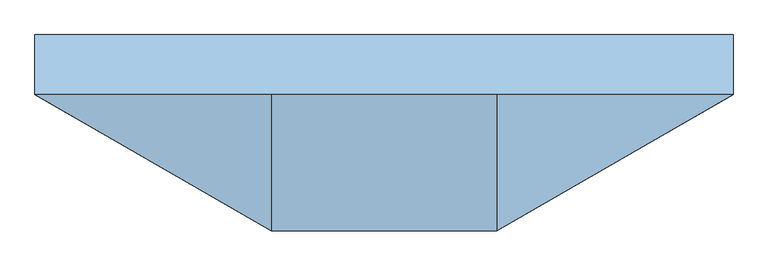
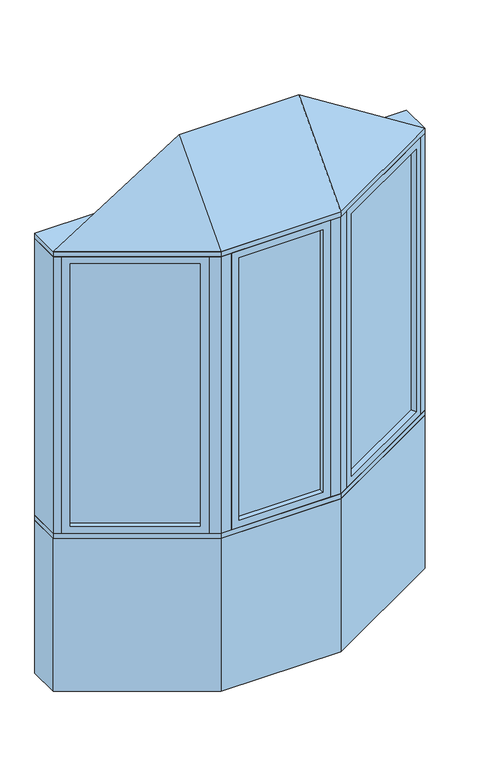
"""IFC4 building model written with IfcOpenShell, lengths in millimetres: window geometry, Pollard_Windows_Tudor Casement Bows and Bays : AML-BAY 30 AFR0514-08-600."""

import ifcopenshell
import ifcopenshell.guid

model = None  # the IFC model being written
_history = None  # IfcOwnerHistory: only IFC2X3 demands one
_inside = {}  # id of a spatial element -> (the spatial element, [elements in it])
_under = {}  # id of a project, library or spatial element -> (it, [spatial elements below it])
_declared = {}  # id of a project -> (the project, [libraries it declares])
_typed = {}  # id of a type object -> (the type object, [elements of that type])
_made_of = {}  # id of a material, layer set ... -> (it, [elements and type objects made of it])


def new_model(schema):
    """Start an empty IFC model of exactly this schema.

    Asked for "IFC4X3", IfcOpenShell would pick the latest addendum, in which some entities
    have other attributes; the version numbers below select the first issue.
    IFC2X3 requires an IfcOwnerHistory on every rooted entity: one is made here for all.
    """
    global model, _history
    if schema == "IFC4X3":
        model = ifcopenshell.file(schema_version=(4, 3, 0, 0))
    else:
        model = ifcopenshell.file(schema=schema)
    _inside.clear()
    _under.clear()
    _declared.clear()
    _typed.clear()
    _made_of.clear()
    _history = None
    if model.schema == "IFC2X3":
        org = make("IfcOrganization", Name="unknown")
        user = make(
            "IfcPersonAndOrganization",
            ThePerson=make("IfcPerson", FamilyName="unknown"),
            TheOrganization=org,
        )
        app = make(
            "IfcApplication",
            ApplicationDeveloper=org,
            Version="unknown",
            ApplicationFullName="unknown",
            ApplicationIdentifier="unknown",
        )
        _history = make(
            "IfcOwnerHistory",
            OwningUser=user,
            OwningApplication=app,
            ChangeAction="ADDED",
            CreationDate=0,
        )
    return model


def make(cls, **values):
    """One entity of the class cls with the attributes given. An attribute that is None is left unset."""
    return model.create_entity(
        cls, **{name: value for name, value in values.items() if value is not None}
    )


def rooted(cls, **values):
    """An entity with a GlobalId (a new one), such as an element, a storey or a relation."""
    return make(cls, GlobalId=ifcopenshell.guid.new(), OwnerHistory=_history, **values)


def si_unit(unit_type, name, prefix=None):
    """IfcSIUnit, for example si_unit("LENGTHUNIT", "METRE", prefix="MILLI")."""
    return make("IfcSIUnit", UnitType=unit_type, Prefix=prefix, Name=name)


def assignment(units):
    """IfcUnitAssignment: the units of a project."""
    return None if units is None else make("IfcUnitAssignment", Units=units)


def point(xyz):
    """IfcCartesianPoint."""
    return None if xyz is None else make("IfcCartesianPoint", Coordinates=xyz)


def direction(xyz):
    """IfcDirection."""
    return None if xyz is None else make("IfcDirection", DirectionRatios=xyz)


def frame(location, z_axis=None, x_axis=None):
    """IfcAxis2Placement3D, a coordinate frame: its origin and axes. An axis left out is left unset."""
    return make(
        "IfcAxis2Placement3D",
        Location=point(location),
        Axis=direction(z_axis),
        RefDirection=direction(x_axis),
    )


def origin():
    """The frame at (0, 0, 0) with its axes left unset."""
    return frame((0.0, 0.0, 0.0))


def origin_with_axes():
    """The frame at (0, 0, 0) with the z axis (0, 0, 1) and the x axis (1, 0, 0) written out."""
    return frame((0.0, 0.0, 0.0), z_axis=(0.0, 0.0, 1.0), x_axis=(1.0, 0.0, 0.0))


def place(relative_to, where):
    """IfcLocalPlacement: puts the frame where relative to a parent placement (None: the world)."""
    return make(
        "IfcLocalPlacement", PlacementRelTo=relative_to, RelativePlacement=where
    )


def context(
    kind, dimensions, precision=None, world=None, true_north=None, identifier=None
):
    """IfcGeometricRepresentationContext, for example the 3D "Model" context."""
    return make(
        "IfcGeometricRepresentationContext",
        ContextIdentifier=identifier,
        ContextType=kind,
        CoordinateSpaceDimension=dimensions,
        Precision=precision,
        WorldCoordinateSystem=world,
        TrueNorth=true_north,
    )


def project(units=None, contexts=None):
    """IfcProject with its units and contexts."""
    return rooted(
        "IfcProject",
        Name="project",
        RepresentationContexts=contexts,
        UnitsInContext=assignment(units),
    )


def spatial(cls, under=None, at=None, **own):
    """A site, building, storey or space (cls), placed at a placement, below another one or the project."""
    s = rooted(cls, ObjectPlacement=at, **own)
    if under is not None:
        _under.setdefault(under.id(), (under, []))[1].append(s)
    return s


def polyline(points):
    """IfcPolyline through the points."""
    return make("IfcPolyline", Points=[point(p) for p in points])


def outline(outer, holes=None, kind="AREA"):
    """IfcArbitraryClosedProfileDef: a profile drawn as a closed curve; with holes, ...WithVoids."""
    if holes is None:
        return make("IfcArbitraryClosedProfileDef", ProfileType=kind, OuterCurve=outer)
    return make(
        "IfcArbitraryProfileDefWithVoids",
        ProfileType=kind,
        OuterCurve=outer,
        InnerCurves=holes,
    )


def extrude(swept, where, along, depth):
    """IfcExtrudedAreaSolid: the profile swept, set in the frame where, extruded along a direction by depth."""
    return make(
        "IfcExtrudedAreaSolid",
        SweptArea=swept,
        Position=where,
        ExtrudedDirection=direction(along),
        Depth=depth,
    )


def faces_of(points, faces, orient=None, outer=None):
    """IfcFace entities. A face is a list of loops; a loop is a list of indices into points, from 0.

    orient and outer hold one flag for each loop. By default every Orientation is true, the
    first loop of a face is its IfcFaceOuterBound and the others are IfcFaceBound.
    """
    made = []
    for i, loops in enumerate(faces):
        bounds = []
        for j, loop in enumerate(loops):
            is_outer = j == 0 if outer is None else outer[i][j]
            bounds.append(
                make(
                    "IfcFaceOuterBound" if is_outer else "IfcFaceBound",
                    Bound=make("IfcPolyLoop", Polygon=[points[k] for k in loop]),
                    Orientation=True if orient is None else orient[i][j],
                )
            )
        made.append(make("IfcFace", Bounds=bounds))
    return made


def faceted_brep(points, faces, orient=None, outer=None, voids=None):
    """IfcFacetedBrep: a solid bounded by flat faces; with voids (closed shells), ...WithVoids."""
    shared = [point(p) for p in points]
    hull = make("IfcClosedShell", CfsFaces=faces_of(shared, faces, orient, outer))
    if voids is None:
        return make("IfcFacetedBrep", Outer=hull)
    return make(
        "IfcFacetedBrepWithVoids",
        Outer=hull,
        Voids=[
            make(cls, CfsFaces=faces_of(shared, fs, o, b)) for cls, fs, o, b in voids
        ],
    )


def shape(context_of_items, identifier, shape_type, items):
    """IfcShapeRepresentation: the items that make up one representation, for example the "Body"."""
    return make(
        "IfcShapeRepresentation",
        ContextOfItems=context_of_items,
        RepresentationIdentifier=identifier,
        RepresentationType=shape_type,
        Items=items,
    )


def source(mapping_origin, context_of_items, identifier, shape_type, items):
    """IfcRepresentationMap: a shape defined once, which mapped items show again and again."""
    return make(
        "IfcRepresentationMap",
        MappingOrigin=mapping_origin,
        MappedRepresentation=shape(context_of_items, identifier, shape_type, items),
    )


def transform(
    local_origin,
    x_axis=None,
    y_axis=None,
    z_axis=None,
    scale=None,
    scale2=None,
    scale3=None,
    uniform=True,
):
    """IfcCartesianTransformationOperator3D, or its non-uniform kind. x_axis, y_axis, z_axis: its Axis1, 2, 3."""
    if uniform:
        return make(
            "IfcCartesianTransformationOperator3D",
            Axis1=direction(x_axis),
            Axis2=direction(y_axis),
            LocalOrigin=point(local_origin),
            Scale=scale,
            Axis3=direction(z_axis),
        )
    return make(
        "IfcCartesianTransformationOperator3DnonUniform",
        Axis1=direction(x_axis),
        Axis2=direction(y_axis),
        LocalOrigin=point(local_origin),
        Scale=scale,
        Axis3=direction(z_axis),
        Scale2=scale2,
        Scale3=scale3,
    )


def mapped(mapping_source, mapping_target):
    """IfcMappedItem: shows the shape of a source again, moved by a transform."""
    return make(
        "IfcMappedItem", MappingSource=mapping_source, MappingTarget=mapping_target
    )


def made_of(thing, what):
    """Note that an element or type object is made of a material, layer set ...; save() writes the relation."""
    if what is not None:
        _made_of.setdefault(what.id(), (what, []))[1].append(thing)
    return thing


def element(
    cls,
    number,
    at=None,
    inside=None,
    cuts=None,
    type_object=None,
    material=None,
    context=None,
    identifier="Body",
    shape_type=None,
    held_by="IfcProductDefinitionShape",
    body=None,
    shapes=None,
    **own,
):
    """One element of the class cls, such as IfcWall. Its Tag is "e" and its number.

    at: its placement. inside: the storey or other place that contains it. cuts: it is an
    opening in that element (IfcRelVoidsElement). A single representation is given by context,
    identifier, shape_type and body (its items); several are given by shapes. held_by: the class
    of the entity that holds the representations. save() writes the other relations.
    """
    e = rooted(cls, Tag="e%d" % number, ObjectPlacement=at, **own)
    if body is not None:
        shapes = [shape(context, identifier, shape_type, body)]
    if shapes is not None:
        e.Representation = make(held_by, Representations=shapes)
    if inside is not None:
        _inside.setdefault(inside.id(), (inside, []))[1].append(e)
    if cuts is not None:
        rooted(
            "IfcRelVoidsElement", RelatingBuildingElement=cuts, RelatedOpeningElement=e
        )
    if type_object is not None:
        _typed.setdefault(type_object.id(), (type_object, []))[1].append(e)
    return made_of(e, material)


def aggregate(whole, parts):
    """IfcRelAggregates: a whole, such as a stair, and the parts it consists of."""
    return rooted("IfcRelAggregates", RelatingObject=whole, RelatedObjects=parts)


def save(model, path):
    """Write the relations noted so far, then the file.

    IfcRelAggregates (storeys below a building ...), IfcRelContainedInSpatialStructure (elements
    in a storey), IfcRelDefinesByType, IfcRelAssociatesMaterial and IfcRelDeclares: one each for
    every whole, place, type object, material and project.
    """
    for whole, parts in _under.values():
        aggregate(whole, parts)
    for where, things in _inside.values():
        rooted(
            "IfcRelContainedInSpatialStructure",
            RelatedElements=things,
            RelatingStructure=where,
        )
    for kind, things in _typed.values():
        rooted("IfcRelDefinesByType", RelatedObjects=things, RelatingType=kind)
    for what, things in _made_of.values():
        rooted("IfcRelAssociatesMaterial", RelatedObjects=things, RelatingMaterial=what)
    for by, libraries in _declared.values():
        rooted("IfcRelDeclares", RelatingContext=by, RelatedDefinitions=libraries)
    model.write(path)


def window_b8dc1ca2(model_context):
    return source(origin(), model_context, "Body", "SolidModel", [
        extrude(outline(polyline([(826.612102, -82.0482469), (338.3834764, -363.9271754), (335.8434764, -359.5277664), (824.072102, -77.6488379), (826.612102, -82.0482469)])), frame((0.0, 0.0, 823.1628), z_axis=(0.0, 0.0, 1.0), x_axis=(1.0, 0.0, 0.0)), (0.0, 0.0, 1.0), 1353.6704),
        faceted_brep([(815.6135794, -88.3982469, 835.8628), (828.3135794, -110.3952922, 835.8628), (828.3135794, -110.3952922, 2164.1332), (815.6135794, -88.3982469, 2164.1332), (824.072102, -77.6488379, 823.1628), (826.612102, -82.0482469, 823.1628), (826.612102, -82.0482469, 2176.8332), (824.072102, -77.6488379, 2176.8332), (800.3735794, -62.0017926, 835.8628), (813.0735794, -83.9988379, 835.8628), (813.0735794, -83.9988379, 2164.1332), (800.3735794, -62.0017926, 2164.1332), (859.3734073, -92.4628922, 799.998), (831.4334073, -44.0693926, 799.998), (831.4334073, -44.0693926, 2199.998), (859.3734073, -92.4628922, 2199.998), (362.081999, -379.5742207, 2164.1332), (349.381999, -357.5771754, 2164.1332), (338.3834764, -363.9271754, 2176.8332), (335.8434764, -359.5277664, 2176.8332), (346.841999, -353.1777664, 2164.1332), (334.141999, -331.1807211, 2164.1332), (303.0821711, -349.1131211, 2199.998), (331.0221711, -397.5066207, 2199.998), (362.081999, -379.5742207, 835.8628), (349.381999, -357.5771754, 835.8628), (338.3834764, -363.9271754, 823.1628), (335.8434764, -359.5277664, 823.1628), (346.841999, -353.1777664, 835.8628), (334.141999, -331.1807211, 835.8628), (303.0821711, -349.1131211, 799.998), (331.0221711, -397.5066207, 799.998)], [[[0, 1, 2, 3]], [[4, 5, 6, 7]], [[8, 9, 10, 11]], [[12, 13, 14, 15]], [[3, 2, 16, 17]], [[7, 6, 18, 19]], [[11, 10, 20, 21]], [[15, 14, 22, 23]], [[17, 16, 24, 25]], [[19, 18, 26, 27]], [[21, 20, 28, 29]], [[23, 22, 30, 31]], [[25, 24, 1, 0]], [[5, 26, 18, 6], [3, 17, 25, 0]], [[27, 26, 5, 4]], [[7, 19, 27, 4], [9, 28, 20, 10]], [[29, 28, 9, 8]], [[13, 30, 22, 14], [11, 21, 29, 8]], [[31, 30, 13, 12]], [[15, 23, 31, 12], [1, 24, 16, 2]]]),
        extrude(outline(polyline([(-338.3834764, -363.9271754), (-826.612102, -82.0482469), (-824.072102, -77.6488379), (-335.8434764, -359.5277664), (-338.3834764, -363.9271754)])), frame((0.0, 0.0, 823.1628), z_axis=(0.0, 0.0, 1.0), x_axis=(1.0, 0.0, 0.0)), (0.0, 0.0, 1.0), 1353.6704),
        faceted_brep([(-346.841999, -353.1777664, 2164.1332), (-334.141999, -331.1807211, 2164.1332), (-334.141999, -331.1807211, 835.8628), (-346.841999, -353.1777664, 835.8628), (-338.3834764, -363.9271754, 2176.8332), (-335.8434764, -359.5277664, 2176.8332), (-335.8434764, -359.5277664, 823.1628), (-338.3834764, -363.9271754, 823.1628), (-362.081999, -379.5742207, 2164.1332), (-349.381999, -357.5771754, 2164.1332), (-349.381999, -357.5771754, 835.8628), (-362.081999, -379.5742207, 835.8628), (-303.0821711, -349.1131211, 2199.998), (-331.0221711, -397.5066207, 2199.998), (-331.0221711, -397.5066207, 799.998), (-303.0821711, -349.1131211, 799.998), (-800.3735794, -62.0017926, 835.8628), (-813.0735794, -83.9988379, 835.8628), (-824.072102, -77.6488379, 823.1628), (-826.612102, -82.0482469, 823.1628), (-815.6135794, -88.3982469, 835.8628), (-828.3135794, -110.3952922, 835.8628), (-859.3734073, -92.4628922, 799.998), (-831.4334073, -44.0693926, 799.998), (-800.3735794, -62.0017926, 2164.1332), (-813.0735794, -83.9988379, 2164.1332), (-824.072102, -77.6488379, 2176.8332), (-826.612102, -82.0482469, 2176.8332), (-815.6135794, -88.3982469, 2164.1332), (-828.3135794, -110.3952922, 2164.1332), (-859.3734073, -92.4628922, 2199.998), (-831.4334073, -44.0693926, 2199.998)], [[[0, 1, 2, 3]], [[4, 5, 6, 7]], [[8, 9, 10, 11]], [[12, 13, 14, 15]], [[3, 2, 16, 17]], [[7, 6, 18, 19]], [[11, 10, 20, 21]], [[15, 14, 22, 23]], [[17, 16, 24, 25]], [[19, 18, 26, 27]], [[21, 20, 28, 29]], [[23, 22, 30, 31]], [[15, 23, 31, 12], [1, 24, 16, 2]], [[25, 24, 1, 0]], [[5, 26, 18, 6], [3, 17, 25, 0]], [[27, 26, 5, 4]], [[7, 19, 27, 4], [9, 28, 20, 10]], [[29, 28, 9, 8]], [[13, 30, 22, 14], [11, 21, 29, 8]], [[31, 30, 13, 12]]]),
        extrude(outline(polyline([(214.5561009, -397.1066207), (-214.5561009, -397.1066207), (-214.5561009, -392.0266207), (214.5561009, -392.0266207), (214.5561009, -397.1066207)])), frame((0.0, 0.0, 823.1628), z_axis=(0.0, 0.0, 1.0), x_axis=(1.0, 0.0, 0.0)), (0.0, 0.0, 1.0), 1353.6704),
        faceted_brep([(201.8561009, -397.1066207, 835.8628), (201.8561009, -422.5066207, 835.8628), (201.8561009, -422.5066207, 2164.1332), (201.8561009, -397.1066207, 2164.1332), (214.5561009, -392.0266207, 823.1628), (214.5561009, -397.1066207, 823.1628), (214.5561009, -397.1066207, 2176.8332), (214.5561009, -392.0266207, 2176.8332), (201.8561009, -366.6266207, 835.8628), (201.8561009, -392.0266207, 835.8628), (201.8561009, -392.0266207, 2164.1332), (201.8561009, -366.6266207, 2164.1332), (237.7209009, -422.5066207, 799.998), (237.7209009, -366.6266207, 799.998), (237.7209009, -366.6266207, 2199.998), (237.7209009, -422.5066207, 2199.998), (-201.8561009, -422.5066207, 2164.1332), (-201.8561009, -397.1066207, 2164.1332), (-214.5561009, -397.1066207, 2176.8332), (-214.5561009, -392.0266207, 2176.8332), (-201.8561009, -392.0266207, 2164.1332), (-201.8561009, -366.6266207, 2164.1332), (-237.7209009, -366.6266207, 2199.998), (-237.7209009, -422.5066207, 2199.998), (-201.8561009, -422.5066207, 835.8628), (-201.8561009, -397.1066207, 835.8628), (-214.5561009, -397.1066207, 823.1628), (-214.5561009, -392.0266207, 823.1628), (-201.8561009, -392.0266207, 835.8628), (-201.8561009, -366.6266207, 835.8628), (-237.7209009, -366.6266207, 799.998), (-237.7209009, -422.5066207, 799.998)], [[[0, 1, 2, 3]], [[4, 5, 6, 7]], [[8, 9, 10, 11]], [[12, 13, 14, 15]], [[3, 2, 16, 17]], [[7, 6, 18, 19]], [[11, 10, 20, 21]], [[15, 14, 22, 23]], [[17, 16, 24, 25]], [[19, 18, 26, 27]], [[21, 20, 28, 29]], [[23, 22, 30, 31]], [[15, 23, 31, 12], [1, 24, 16, 2]], [[25, 24, 1, 0]], [[5, 26, 18, 6], [3, 17, 25, 0]], [[27, 26, 5, 4]], [[7, 19, 27, 4], [9, 28, 20, 10]], [[29, 28, 9, 8]], [[13, 30, 22, 14], [11, 21, 29, 8]], [[31, 30, 13, 12]]]),
        faceted_brep([(890.0, -74.7806207, 2225.398), (287.7209009, -422.5066207, 2225.398), (-287.7209009, -422.5066207, 2225.398), (-890.0, -74.7806207, 2225.398), (-287.7209009, -74.7806207, 2606.398), (287.7209009, -74.7806207, 2606.398)], [[[0, 1, 2, 3]], [[3, 2, 4]], [[2, 1, 5, 4]], [[1, 0, 5]], [[0, 3, 4, 5]]]),
        extrude(outline(polyline([(-890.0, 77.6193793), (890.0, 77.6193793), (890.0, -74.7806207), (287.7209009, -422.5066207), (-287.7209009, -422.5066207), (-890.0, -74.7806207), (-890.0, 77.6193793)])), frame((0.0, 0.0, 2199.998), z_axis=(0.0, 0.0, 1.0), x_axis=(1.0, 0.0, 0.0)), (0.0, 0.0, 1.0), 25.4),
        extrude(outline(polyline([(-890.0, -74.7806207), (-890.0, 77.6193793), (-849.1645431, 77.6193793), (-849.1645431, -74.7806207), (-859.3734073, -92.4628922), (-890.0, -74.7806207)])), frame((0.0, 0.0, 799.998), z_axis=(0.0, 0.0, 1.0), x_axis=(1.0, 0.0, 0.0)), (0.0, 0.0, 1.0), 1400.0),
        extrude(outline(polyline([(890.0, 77.6193793), (890.0, -74.7806207), (859.3734073, -92.4628922), (849.1645431, -74.7806207), (849.1645431, 77.6193793), (890.0, 77.6193793)])), frame((0.0, 0.0, 799.998), z_axis=(0.0, 0.0, 1.0), x_axis=(1.0, 0.0, 0.0)), (0.0, 0.0, 1.0), 1400.0),
        extrude(outline(polyline([(287.7209009, -422.5066207), (237.7209009, -422.5066207), (237.7209009, -372.5066207), (274.3234413, -372.5066207), (306.0221711, -354.2053505), (331.0221711, -397.5066207), (287.7209009, -422.5066207)])), frame((0.0, 0.0, 799.998), z_axis=(0.0, 0.0, 1.0), x_axis=(1.0, 0.0, 0.0)), (0.0, 0.0, 1.0), 1400.0),
        extrude(outline(polyline([(-287.7209009, -422.5066207), (-331.0221711, -397.5066207), (-306.0221711, -354.2053505), (-274.3234413, -372.5066207), (-237.7209009, -372.5066207), (-237.7209009, -422.5066207), (-287.7209009, -422.5066207)])), frame((0.0, 0.0, 799.998), z_axis=(0.0, 0.0, 1.0), x_axis=(1.0, 0.0, 0.0)), (0.0, 0.0, 1.0), 1400.0),
        extrude(outline(polyline([(-287.7209009, -422.5066207), (-890.0, -74.7806207), (-890.0, 77.6193793), (-849.1645431, 77.6193793), (-246.885444, -270.1066207), (246.885444, -270.1066207), (849.1645431, 77.6193793), (890.0, 77.6193793), (890.0, -74.7806207), (287.7209009, -422.5066207), (-287.7209009, -422.5066207)])), frame((0.0, 0.0, 774.598), z_axis=(0.0, 0.0, 1.0), x_axis=(1.0, 0.0, 0.0)), (0.0, 0.0, 1.0), 25.4),
        extrude(outline(polyline([(-890.0, -74.7806207), (-890.0, 77.6193793), (-849.1645431, 77.6193793), (-246.885444, -270.1066207), (246.885444, -270.1066207), (849.1645431, 77.6193793), (890.0, 77.6193793), (890.0, -74.7806207), (287.7209009, -422.5066207), (-287.7209009, -422.5066207), (-890.0, -74.7806207)])), origin_with_axes(), (0.0, 0.0, 1.0), 774.598),
    ])


if __name__ == "__main__":
    model = new_model("IFC4")
    model_context = context("Model", 3, world=origin())
    ifc_project = project(units=[si_unit("LENGTHUNIT", "METRE", prefix="MILLI")], contexts=[model_context])
    site = spatial("IfcSite", under=ifc_project)
    building = spatial("IfcBuilding", under=site)
    placement = place(None, origin())
    window_shape = window_b8dc1ca2(model_context)
    element("IfcWindow", 1, ObjectType="Pollard_Windows_Tudor Casement Bows and Bays : AML-BAY 30 AFR0514-08-600", at=placement, inside=building, context=model_context, shape_type="MappedRepresentation", body=[
        mapped(window_shape, transform((0.0, 0.0, 0.0), x_axis=(1.0, 0.0, 0.0), y_axis=(0.0, 1.0, 0.0), z_axis=(0.0, 0.0, 1.0))),
    ])
    save(model, "model.ifc")
